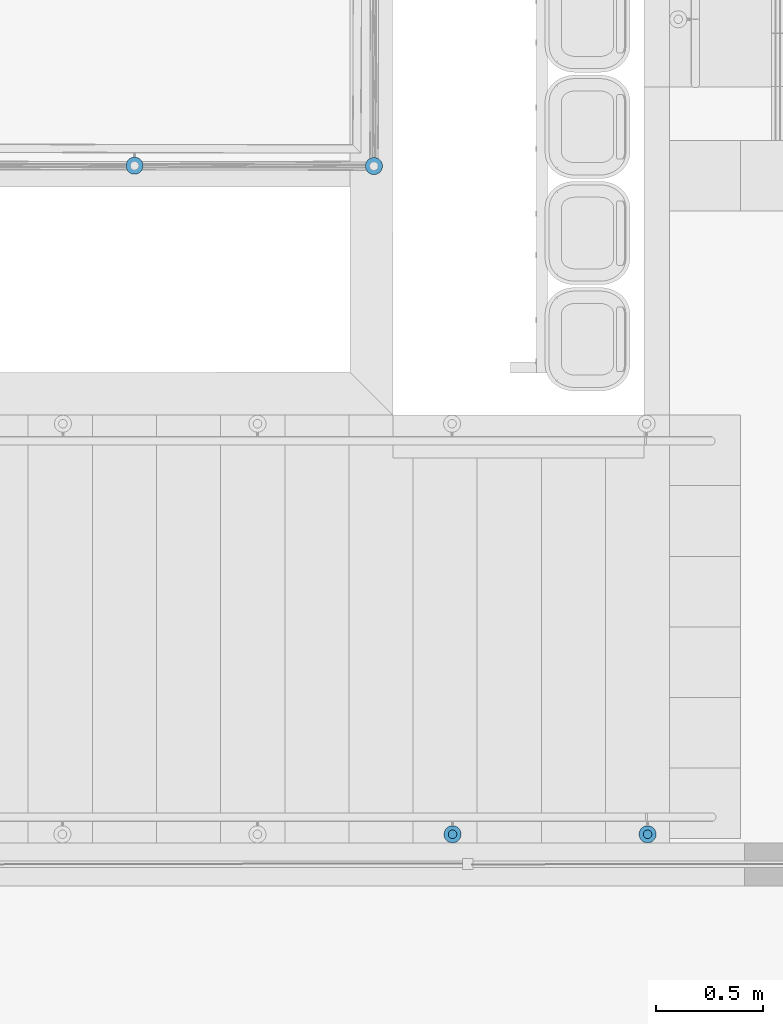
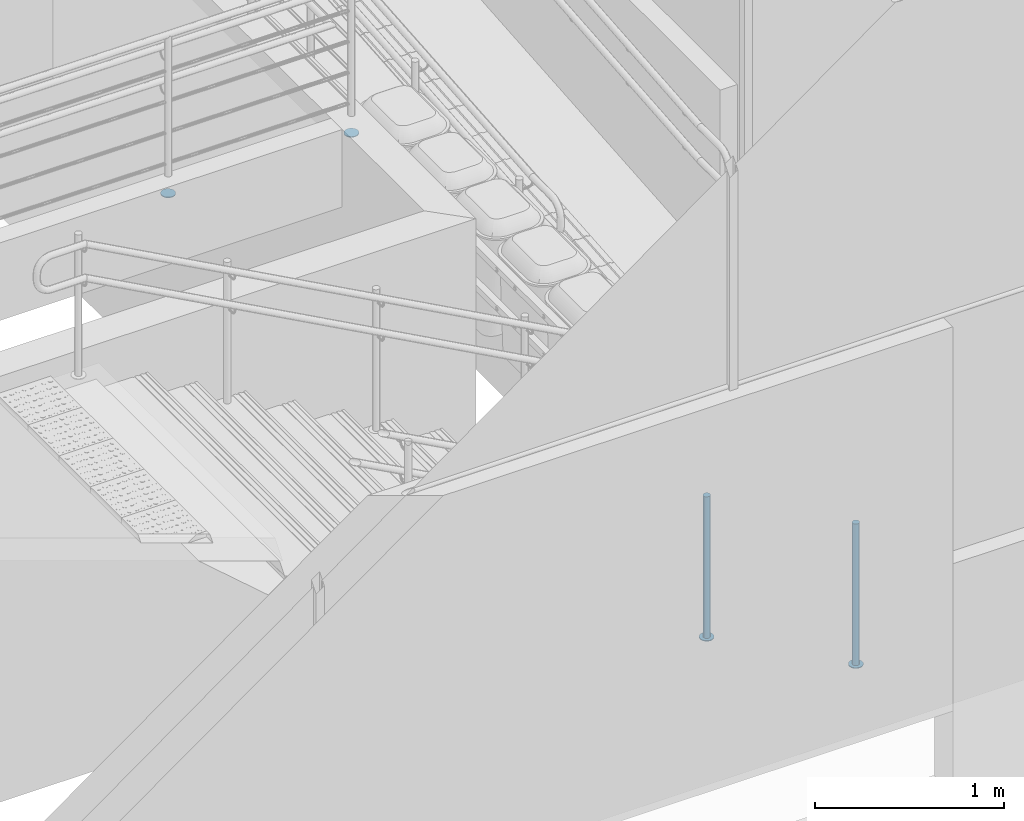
# One storey, part 109 of 237: 6 building element parts, 2 elements without a shape of their own.
"""IFC2X3 building model written with IfcOpenShell, lengths in millimetres."""

from ifc_helpers import new_model, entity, si_unit, converted_unit, derived_unit, money_unit, direction, frame, origin_with_axes, place, context, subcontext, project, spatial, faceted_brep, material, type_object, element, aggregate, save


model = new_model("IFC2X3")

# Units and contexts
model_context = context("Model", 3, precision=0.01, world=origin_with_axes(), true_north=direction((0.0, 1.0)))
body_context = subcontext(model_context, "Body", "Model", "MODEL_VIEW")
ifc_project = project(units=[si_unit("LENGTHUNIT", "METRE", prefix="MILLI"), si_unit("AREAUNIT", "SQUARE_METRE"), si_unit("VOLUMEUNIT", "CUBIC_METRE"), converted_unit("PLANEANGLEUNIT", "DEGREE", entity("IfcPlaneAngleMeasure", 0.0174532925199), si_unit("PLANEANGLEUNIT", "RADIAN"), dimensions=[0, 0, 0, 0, 0, 0, 0]), money_unit("USD"), converted_unit("TIMEUNIT", "Year", entity("IfcTimeMeasure", 31556926.0), si_unit("TIMEUNIT", "SECOND"), dimensions=[0, 0, 1, 0, 0, 0, 0]), si_unit("MASSUNIT", "GRAM", prefix="KILO"), si_unit("THERMODYNAMICTEMPERATUREUNIT", "DEGREE_CELSIUS"), si_unit("LUMINOUSINTENSITYUNIT", "LUMEN"), si_unit("ENERGYUNIT", "JOULE", prefix="MEGA"), derived_unit("THERMALCONDUCTANCEUNIT", [(si_unit("POWERUNIT", "WATT"), 1), (si_unit("LENGTHUNIT", "METRE"), -1), (si_unit("THERMODYNAMICTEMPERATUREUNIT", "KELVIN"), -1)]), derived_unit("SPECIFICHEATCAPACITYUNIT", [(si_unit("ENERGYUNIT", "JOULE"), 1), (si_unit("MASSUNIT", "GRAM", prefix="KILO"), -1), (si_unit("THERMODYNAMICTEMPERATUREUNIT", "KELVIN"), -1)]), derived_unit("MASSDENSITYUNIT", [(si_unit("MASSUNIT", "GRAM", prefix="KILO"), 1), (si_unit("VOLUMEUNIT", "CUBIC_METRE"), -1)])], contexts=[model_context])

# Site, building, storey
site_placement = place(None, origin_with_axes())
site = spatial("IfcSite", under=ifc_project, at=site_placement, Name="Local", CompositionType="ELEMENT")
building_placement = place(site_placement, origin_with_axes())
building = spatial("IfcBuilding", under=site, at=building_placement, Name="Construção", CompositionType="ELEMENT")
storey_placement = place(building_placement, origin_with_axes())
storey = spatial("IfcBuildingStorey", under=building, at=storey_placement, Name="Pavimento Térreo", CompositionType="ELEMENT", Elevation=0.0)

# Railing, building element parts
railing_type = type_object("IfcRailingType", Name="Tipo de Guarda-Corpo", PredefinedType="NOTDEFINED")
railing_1_placement = place(storey_placement, frame((70326.6870103, 28675.2458388, -1357.10819655), z_axis=(0.0, 0.0, 1.0), x_axis=(1.0, 0.0, 0.0)))
railing_1 = element("IfcRailing", 1, at=railing_1_placement, inside=storey, type_object=railing_type, Name="Guarda-Corpo - 004", PredefinedType="NOTDEFINED")
ifc_material_1 = material(Name="Alumínio")
building_element_part_1_placement = place(railing_1_placement, origin_with_axes())
building_element_part_1 = element("IfcBuildingElementPart", 2, at=building_element_part_1_placement, material=ifc_material_1, Name="Alumínio", context=body_context, shape_type="Brep", body=[
    faceted_brep([(-4707.34307729, -1852.74947101, 0.0), (-4707.93967589, -1845.80258246, 0.0), (-4707.93967589, -1845.80258246, 5.0), (-4707.34307729, -1852.74947101, 5.0), (-4707.9618569, -1859.69441896, 0.0), (-4709.77721341, -1866.42640761, 0.0), (-4712.73398814, -1872.74088887, 0.0), (-4716.74234098, -1878.44600042, 0.0), (-4721.68048015, -1883.36839535, 0.0), (-4727.39836281, -1887.35850917, 0.0), (-4733.72225398, -1890.29510429, 0.0), (-4740.46000541, -1892.08895375, 0.0), (-4747.40689396, -1892.68555236, 0.0), (-4754.35184192, -1892.06677275, 0.0), (-4761.08383056, -1890.25141624, 0.0), (-4767.39831182, -1887.29464151, 0.0), (-4773.10342338, -1883.28628867, 0.0), (-4778.02581831, -1878.34814949, 0.0), (-4782.01593212, -1872.63026684, 0.0), (-4784.95252724, -1866.30637567, 0.0), (-4786.74637671, -1859.56862423, 0.0), (-4787.34297531, -1852.62173569, 0.0), (-4786.7241957, -1845.67678773, 0.0), (-4784.90883919, -1838.94479908, 0.0), (-4781.95206447, -1832.63031782, 0.0), (-4777.94371163, -1826.92520627, 0.0), (-4773.00557245, -1822.00281134, 0.0), (-4767.28768979, -1818.01269752, 0.0), (-4760.96379863, -1815.0761024, 0.0), (-4754.22604719, -1813.28225294, 0.0), (-4747.27915864, -1812.68565433, 0.0), (-4740.33421068, -1813.30443394, 0.0), (-4733.60222204, -1815.11979045, 0.0), (-4727.28774078, -1818.07656518, 0.0), (-4721.58262922, -1822.08491802, 0.0), (-4716.6602343, -1827.0230572, 0.0), (-4712.67012048, -1832.74093986, 0.0), (-4709.73352536, -1839.06483102, 0.0), (-4709.73352536, -1839.06483102, 5.0), (-4712.67012048, -1832.74093986, 5.0), (-4716.6602343, -1827.0230572, 5.0), (-4721.58262922, -1822.08491802, 5.0), (-4727.28774078, -1818.07656518, 5.0), (-4733.60222204, -1815.11979045, 5.0), (-4740.33421068, -1813.30443394, 5.0), (-4747.27915864, -1812.68565433, 5.0), (-4754.22604719, -1813.28225294, 5.0), (-4760.96379863, -1815.0761024, 5.0), (-4767.28768979, -1818.01269752, 5.0), (-4773.00557245, -1822.00281134, 5.0), (-4777.94371163, -1826.92520627, 5.0), (-4781.95206447, -1832.63031782, 5.0), (-4784.90883919, -1838.94479908, 5.0), (-4786.7241957, -1845.67678773, 5.0), (-4787.34297531, -1852.62173569, 5.0), (-4786.74637671, -1859.56862423, 5.0), (-4784.95252724, -1866.30637567, 5.0), (-4782.01593212, -1872.63026684, 5.0), (-4778.02581831, -1878.34814949, 5.0), (-4773.10342338, -1883.28628867, 5.0), (-4767.39831182, -1887.29464151, 5.0), (-4761.08383056, -1890.25141624, 5.0), (-4754.35184192, -1892.06677275, 5.0), (-4747.40689396, -1892.68555236, 5.0), (-4740.46000541, -1892.08895375, 5.0), (-4733.72225398, -1890.29510429, 5.0), (-4727.39836281, -1887.35850917, 5.0), (-4721.68048015, -1883.36839535, 5.0), (-4716.74234098, -1878.44600042, 5.0), (-4712.73398814, -1872.74088887, 5.0), (-4709.77721341, -1866.42640761, 5.0), (-4707.9618569, -1859.69441896, 5.0)], [[[0, 1, 2, 3]], [[0, 4, 5, 6, 7, 8, 9, 10, 11, 12, 13, 14, 15, 16, 17, 18, 19, 20, 21, 22, 23, 24, 25, 26, 27, 28, 29, 30, 31, 32, 33, 34, 35, 36, 37, 1]], [[1, 37, 38, 2]], [[3, 2, 38, 39, 40, 41, 42, 43, 44, 45, 46, 47, 48, 49, 50, 51, 52, 53, 54, 55, 56, 57, 58, 59, 60, 61, 62, 63, 64, 65, 66, 67, 68, 69, 70, 71]], [[4, 0, 3, 71]], [[5, 4, 71, 70]], [[6, 5, 70, 69]], [[7, 6, 69, 68]], [[8, 7, 68, 67]], [[9, 8, 67, 66]], [[10, 9, 66, 65]], [[11, 10, 65, 64]], [[12, 11, 64, 63]], [[13, 12, 63, 62]], [[14, 13, 62, 61]], [[15, 14, 61, 60]], [[16, 15, 60, 59]], [[17, 16, 59, 58]], [[18, 17, 58, 57]], [[19, 18, 57, 56]], [[20, 19, 56, 55]], [[21, 20, 55, 54]], [[22, 21, 54, 53]], [[23, 22, 53, 52]], [[24, 23, 52, 51]], [[25, 24, 51, 50]], [[26, 25, 50, 49]], [[27, 26, 49, 48]], [[28, 27, 48, 47]], [[29, 28, 47, 46]], [[30, 29, 46, 45]], [[31, 30, 45, 44]], [[32, 31, 44, 43]], [[33, 32, 43, 42]], [[34, 33, 42, 41]], [[35, 34, 41, 40]], [[36, 35, 40, 39]], [[37, 36, 39, 38]]]),
])
building_element_part_2_placement = place(railing_1_placement, origin_with_axes())
building_element_part_2 = element("IfcBuildingElementPart", 3, at=building_element_part_2_placement, material=ifc_material_1, Name="Alumínio", context=body_context, shape_type="Brep", body=[
    faceted_brep([(-5826.58991011, -1850.96237683, 0.0), (-5827.18650871, -1844.01548828, 0.0), (-5827.18650871, -1844.01548828, 5.0), (-5826.58991011, -1850.96237683, 5.0), (-5827.20868971, -1857.90732479, 0.0), (-5829.02404623, -1864.63931343, 0.0), (-5831.98082095, -1870.95379469, 0.0), (-5835.98917379, -1876.65890625, 0.0), (-5840.92731297, -1881.58130117, 0.0), (-5846.64519563, -1885.57141499, 0.0), (-5852.96908679, -1888.50801011, 0.0), (-5859.70683823, -1890.30185958, 0.0), (-5866.65372678, -1890.89845818, 0.0), (-5873.59867474, -1890.27967857, 0.0), (-5880.33066338, -1888.46432206, 0.0), (-5886.64514464, -1885.50754733, 0.0), (-5892.3502562, -1881.49919449, 0.0), (-5897.27265112, -1876.56105531, 0.0), (-5901.26276494, -1870.84317266, 0.0), (-5904.19936006, -1864.51928149, 0.0), (-5905.99320953, -1857.78153005, 0.0), (-5906.58980813, -1850.83464151, 0.0), (-5905.97102852, -1843.88969355, 0.0), (-5904.15567201, -1837.15770491, 0.0), (-5901.19889728, -1830.84322365, 0.0), (-5897.19054444, -1825.13811209, 0.0), (-5892.25240526, -1820.21571716, 0.0), (-5886.53452261, -1816.22560334, 0.0), (-5880.21063144, -1813.28900822, 0.0), (-5873.47288, -1811.49515876, 0.0), (-5866.52599146, -1810.89856016, 0.0), (-5859.5810435, -1811.51733976, 0.0), (-5852.84905486, -1813.33269628, 0.0), (-5846.5345736, -1816.289471, 0.0), (-5840.82946204, -1820.29782384, 0.0), (-5835.90706711, -1825.23596302, 0.0), (-5831.91695329, -1830.95384568, 0.0), (-5828.98035817, -1837.27773684, 0.0), (-5828.98035817, -1837.27773684, 5.0), (-5831.91695329, -1830.95384568, 5.0), (-5835.90706711, -1825.23596302, 5.0), (-5840.82946204, -1820.29782384, 5.0), (-5846.5345736, -1816.289471, 5.0), (-5852.84905486, -1813.33269628, 5.0), (-5859.5810435, -1811.51733976, 5.0), (-5866.52599146, -1810.89856016, 5.0), (-5873.47288, -1811.49515876, 5.0), (-5880.21063144, -1813.28900822, 5.0), (-5886.53452261, -1816.22560334, 5.0), (-5892.25240526, -1820.21571716, 5.0), (-5897.19054444, -1825.13811209, 5.0), (-5901.19889728, -1830.84322365, 5.0), (-5904.15567201, -1837.15770491, 5.0), (-5905.97102852, -1843.88969355, 5.0), (-5906.58980813, -1850.83464151, 5.0), (-5905.99320953, -1857.78153005, 5.0), (-5904.19936006, -1864.51928149, 5.0), (-5901.26276494, -1870.84317266, 5.0), (-5897.27265112, -1876.56105531, 5.0), (-5892.3502562, -1881.49919449, 5.0), (-5886.64514464, -1885.50754733, 5.0), (-5880.33066338, -1888.46432206, 5.0), (-5873.59867474, -1890.27967857, 5.0), (-5866.65372678, -1890.89845818, 5.0), (-5859.70683823, -1890.30185958, 5.0), (-5852.96908679, -1888.50801011, 5.0), (-5846.64519563, -1885.57141499, 5.0), (-5840.92731297, -1881.58130117, 5.0), (-5835.98917379, -1876.65890625, 5.0), (-5831.98082095, -1870.95379469, 5.0), (-5829.02404623, -1864.63931343, 5.0), (-5827.20868971, -1857.90732479, 5.0)], [[[0, 1, 2, 3]], [[0, 4, 5, 6, 7, 8, 9, 10, 11, 12, 13, 14, 15, 16, 17, 18, 19, 20, 21, 22, 23, 24, 25, 26, 27, 28, 29, 30, 31, 32, 33, 34, 35, 36, 37, 1]], [[1, 37, 38, 2]], [[3, 2, 38, 39, 40, 41, 42, 43, 44, 45, 46, 47, 48, 49, 50, 51, 52, 53, 54, 55, 56, 57, 58, 59, 60, 61, 62, 63, 64, 65, 66, 67, 68, 69, 70, 71]], [[4, 0, 3, 71]], [[5, 4, 71, 70]], [[6, 5, 70, 69]], [[7, 6, 69, 68]], [[8, 7, 68, 67]], [[9, 8, 67, 66]], [[10, 9, 66, 65]], [[11, 10, 65, 64]], [[12, 11, 64, 63]], [[13, 12, 63, 62]], [[14, 13, 62, 61]], [[15, 14, 61, 60]], [[16, 15, 60, 59]], [[17, 16, 59, 58]], [[18, 17, 58, 57]], [[19, 18, 57, 56]], [[20, 19, 56, 55]], [[21, 20, 55, 54]], [[22, 21, 54, 53]], [[23, 22, 53, 52]], [[24, 23, 52, 51]], [[25, 24, 51, 50]], [[26, 25, 50, 49]], [[27, 26, 49, 48]], [[28, 27, 48, 47]], [[29, 28, 47, 46]], [[30, 29, 46, 45]], [[31, 30, 45, 44]], [[32, 31, 44, 43]], [[33, 32, 43, 42]], [[34, 33, 42, 41]], [[35, 34, 41, 40]], [[36, 35, 40, 39]], [[37, 36, 39, 38]]]),
])
aggregate(railing_1, [building_element_part_1, building_element_part_2])

railing_2_placement = place(storey_placement, frame((63166.4526815, 23657.7253191, -3364.52588893), z_axis=(0.0, 0.0, 1.0), x_axis=(1.0, 0.0, 0.0)))
railing_2 = element("IfcRailing", 4, at=railing_2_placement, inside=storey, type_object=railing_type, Name="Guarda-Corpo - 001", PredefinedType="NOTDEFINED")
ifc_material_2 = material(Name="Aço - Inoxidável")
building_element_part_3_placement = place(railing_2_placement, origin_with_axes())
building_element_part_3 = element("IfcBuildingElementPart", 5, at=building_element_part_3_placement, material=ifc_material_2, Name="Aço - Inoxidável", context=body_context, shape_type="Brep", body=[
    faceted_brep([(3689.22114499, 20.3038449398, 26.7154112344), (3692.69410854, 20.0, 26.7154112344), (3692.69410854, 20.0, 941.715411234), (3689.22114499, 20.3038449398, 941.715411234), (3696.16707209, 20.3038449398, 26.7154112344), (3685.85370567, 21.2061475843, 26.7154112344), (3682.69410854, 22.6794919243, 26.7154112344), (3679.83835635, 24.6791111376, 26.7154112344), (3677.37321968, 27.1442478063, 26.7154112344), (3675.37360046, 30.0, 26.7154112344), (3673.90025612, 33.1595971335, 26.7154112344), (3672.99795348, 36.5270364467, 26.7154112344), (3672.69410854, 40.0, 26.7154112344), (3672.99795348, 43.4729635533, 26.7154112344), (3673.90025612, 46.8404028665, 26.7154112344), (3675.37360046, 50.0, 26.7154112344), (3677.37321968, 52.8557521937, 26.7154112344), (3679.83835635, 55.3208888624, 26.7154112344), (3682.69410854, 57.3205080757, 26.7154112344), (3685.85370567, 58.7938524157, 26.7154112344), (3689.22114499, 59.6961550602, 26.7154112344), (3692.69410854, 60.0, 26.7154112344), (3696.16707209, 59.6961550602, 26.7154112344), (3699.53451141, 58.7938524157, 26.7154112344), (3702.69410854, 57.3205080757, 26.7154112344), (3705.54986073, 55.3208888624, 26.7154112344), (3708.0149974, 52.8557521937, 26.7154112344), (3710.01461662, 50.0, 26.7154112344), (3711.48796096, 46.8404028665, 26.7154112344), (3712.3902636, 43.4729635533, 26.7154112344), (3712.69410854, 40.0, 26.7154112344), (3712.3902636, 36.5270364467, 26.7154112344), (3711.48796096, 33.1595971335, 26.7154112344), (3710.01461662, 30.0, 26.7154112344), (3708.0149974, 27.1442478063, 26.7154112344), (3705.54986073, 24.6791111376, 26.7154112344), (3702.69410854, 22.6794919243, 26.7154112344), (3699.53451141, 21.2061475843, 26.7154112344), (3696.16707209, 20.3038449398, 941.715411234), (3672.99795348, 43.4729635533, 941.715411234), (3672.69410854, 40.0, 941.715411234), (3672.99795348, 36.5270364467, 941.715411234), (3673.90025612, 33.1595971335, 941.715411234), (3675.37360046, 30.0, 941.715411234), (3677.37321968, 27.1442478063, 941.715411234), (3679.83835635, 24.6791111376, 941.715411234), (3682.69410854, 22.6794919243, 941.715411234), (3685.85370567, 21.2061475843, 941.715411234), (3699.53451141, 21.2061475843, 941.715411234), (3702.69410854, 22.6794919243, 941.715411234), (3705.54986073, 24.6791111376, 941.715411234), (3708.0149974, 27.1442478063, 941.715411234), (3710.01461662, 30.0, 941.715411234), (3711.48796096, 33.1595971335, 941.715411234), (3712.3902636, 36.5270364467, 941.715411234), (3712.69410854, 40.0, 941.715411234), (3712.3902636, 43.4729635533, 941.715411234), (3711.48796096, 46.8404028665, 941.715411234), (3710.01461662, 50.0, 941.715411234), (3708.0149974, 52.8557521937, 941.715411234), (3705.54986073, 55.3208888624, 941.715411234), (3702.69410854, 57.3205080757, 941.715411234), (3699.53451141, 58.7938524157, 941.715411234), (3696.16707209, 59.6961550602, 941.715411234), (3692.69410854, 60.0, 941.715411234), (3689.22114499, 59.6961550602, 941.715411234), (3685.85370567, 58.7938524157, 941.715411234), (3682.69410854, 57.3205080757, 941.715411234), (3679.83835635, 55.3208888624, 941.715411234), (3677.37321968, 52.8557521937, 941.715411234), (3675.37360046, 50.0, 941.715411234), (3673.90025612, 46.8404028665, 941.715411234)], [[[0, 1, 2, 3]], [[4, 1, 0, 5, 6, 7, 8, 9, 10, 11, 12, 13, 14, 15, 16, 17, 18, 19, 20, 21, 22, 23, 24, 25, 26, 27, 28, 29, 30, 31, 32, 33, 34, 35, 36, 37]], [[1, 4, 38, 2]], [[39, 40, 41, 42, 43, 44, 45, 46, 47, 3, 2, 38, 48, 49, 50, 51, 52, 53, 54, 55, 56, 57, 58, 59, 60, 61, 62, 63, 64, 65, 66, 67, 68, 69, 70, 71]], [[5, 0, 3, 47]], [[6, 5, 47, 46]], [[7, 6, 46, 45]], [[8, 7, 45, 44]], [[9, 8, 44, 43]], [[10, 9, 43, 42]], [[11, 10, 42, 41]], [[12, 11, 41, 40]], [[13, 12, 40, 39]], [[14, 13, 39, 71]], [[15, 14, 71, 70]], [[16, 15, 70, 69]], [[17, 16, 69, 68]], [[18, 17, 68, 67]], [[19, 18, 67, 66]], [[20, 19, 66, 65]], [[21, 20, 65, 64]], [[22, 21, 64, 63]], [[23, 22, 63, 62]], [[24, 23, 62, 61]], [[25, 24, 61, 60]], [[26, 25, 60, 59]], [[27, 26, 59, 58]], [[28, 27, 58, 57]], [[29, 28, 57, 56]], [[30, 29, 56, 55]], [[31, 30, 55, 54]], [[32, 31, 54, 53]], [[33, 32, 53, 52]], [[34, 33, 52, 51]], [[35, 34, 51, 50]], [[36, 35, 50, 49]], [[37, 36, 49, 48]], [[4, 37, 48, 38]]]),
])
building_element_part_4_placement = place(railing_2_placement, origin_with_axes())
building_element_part_4 = element("IfcBuildingElementPart", 6, at=building_element_part_4_placement, material=ifc_material_1, Name="Alumínio", context=body_context, shape_type="Brep", body=[
    faceted_brep([(3732.69410854, 40.0, 21.7154112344), (3732.08641866, 46.9459271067, 21.7154112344), (3732.08641866, 46.9459271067, 26.7154112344), (3732.69410854, 40.0, 26.7154112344), (3732.08641866, 33.0540728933, 21.7154112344), (3730.28181337, 26.319194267, 21.7154112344), (3727.33512469, 20.0, 21.7154112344), (3723.33588627, 14.2884956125, 21.7154112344), (3718.40561293, 9.35822227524, 21.7154112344), (3712.69410854, 5.35898384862, 21.7154112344), (3706.37491427, 2.41229516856, 21.7154112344), (3699.64003565, 0.607689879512, 21.7154112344), (3692.69410854, 0.0, 21.7154112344), (3685.74818143, 0.607689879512, 21.7154112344), (3679.01330281, 2.41229516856, 21.7154112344), (3672.69410854, 5.35898384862, 21.7154112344), (3666.98260415, 9.35822227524, 21.7154112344), (3662.05233082, 14.2884956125, 21.7154112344), (3658.05309239, 20.0, 21.7154112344), (3655.10640371, 26.319194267, 21.7154112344), (3653.30179842, 33.0540728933, 21.7154112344), (3652.69410854, 40.0, 21.7154112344), (3653.30179842, 46.9459271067, 21.7154112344), (3655.10640371, 53.680805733, 21.7154112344), (3658.05309239, 60.0, 21.7154112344), (3662.05233082, 65.7115043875, 21.7154112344), (3666.98260415, 70.6417777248, 21.7154112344), (3672.69410854, 74.6410161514, 21.7154112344), (3679.01330281, 77.5877048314, 21.7154112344), (3685.74818143, 79.3923101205, 21.7154112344), (3692.69410854, 80.0, 21.7154112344), (3699.64003565, 79.3923101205, 21.7154112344), (3706.37491427, 77.5877048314, 21.7154112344), (3712.69410854, 74.6410161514, 21.7154112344), (3718.40561293, 70.6417777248, 21.7154112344), (3723.33588627, 65.7115043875, 21.7154112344), (3727.33512469, 60.0, 21.7154112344), (3730.28181337, 53.680805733, 21.7154112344), (3730.28181337, 53.680805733, 26.7154112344), (3727.33512469, 60.0, 26.7154112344), (3723.33588627, 65.7115043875, 26.7154112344), (3718.40561293, 70.6417777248, 26.7154112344), (3712.69410854, 74.6410161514, 26.7154112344), (3706.37491427, 77.5877048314, 26.7154112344), (3699.64003565, 79.3923101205, 26.7154112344), (3692.69410854, 80.0, 26.7154112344), (3685.74818143, 79.3923101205, 26.7154112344), (3679.01330281, 77.5877048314, 26.7154112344), (3672.69410854, 74.6410161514, 26.7154112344), (3666.98260415, 70.6417777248, 26.7154112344), (3662.05233082, 65.7115043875, 26.7154112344), (3658.05309239, 60.0, 26.7154112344), (3655.10640371, 53.680805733, 26.7154112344), (3653.30179842, 46.9459271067, 26.7154112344), (3652.69410854, 40.0, 26.7154112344), (3653.30179842, 33.0540728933, 26.7154112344), (3655.10640371, 26.319194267, 26.7154112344), (3658.05309239, 20.0, 26.7154112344), (3662.05233082, 14.2884956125, 26.7154112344), (3666.98260415, 9.35822227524, 26.7154112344), (3672.69410854, 5.35898384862, 26.7154112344), (3679.01330281, 2.41229516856, 26.7154112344), (3685.74818143, 0.607689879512, 26.7154112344), (3692.69410854, 0.0, 26.7154112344), (3699.64003565, 0.607689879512, 26.7154112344), (3706.37491427, 2.41229516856, 26.7154112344), (3712.69410854, 5.35898384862, 26.7154112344), (3718.40561293, 9.35822227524, 26.7154112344), (3723.33588627, 14.2884956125, 26.7154112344), (3727.33512469, 20.0, 26.7154112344), (3730.28181337, 26.319194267, 26.7154112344), (3732.08641866, 33.0540728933, 26.7154112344)], [[[0, 1, 2, 3]], [[0, 4, 5, 6, 7, 8, 9, 10, 11, 12, 13, 14, 15, 16, 17, 18, 19, 20, 21, 22, 23, 24, 25, 26, 27, 28, 29, 30, 31, 32, 33, 34, 35, 36, 37, 1]], [[1, 37, 38, 2]], [[3, 2, 38, 39, 40, 41, 42, 43, 44, 45, 46, 47, 48, 49, 50, 51, 52, 53, 54, 55, 56, 57, 58, 59, 60, 61, 62, 63, 64, 65, 66, 67, 68, 69, 70, 71]], [[4, 0, 3, 71]], [[5, 4, 71, 70]], [[6, 5, 70, 69]], [[7, 6, 69, 68]], [[8, 7, 68, 67]], [[9, 8, 67, 66]], [[10, 9, 66, 65]], [[11, 10, 65, 64]], [[12, 11, 64, 63]], [[13, 12, 63, 62]], [[14, 13, 62, 61]], [[15, 14, 61, 60]], [[16, 15, 60, 59]], [[17, 16, 59, 58]], [[18, 17, 58, 57]], [[19, 18, 57, 56]], [[20, 19, 56, 55]], [[21, 20, 55, 54]], [[22, 21, 54, 53]], [[23, 22, 53, 52]], [[24, 23, 52, 51]], [[25, 24, 51, 50]], [[26, 25, 50, 49]], [[27, 26, 49, 48]], [[28, 27, 48, 47]], [[29, 28, 47, 46]], [[30, 29, 46, 45]], [[31, 30, 45, 44]], [[32, 31, 44, 43]], [[33, 32, 43, 42]], [[34, 33, 42, 41]], [[35, 34, 41, 40]], [[36, 35, 40, 39]], [[37, 36, 39, 38]]]),
])
building_element_part_5_placement = place(railing_2_placement, origin_with_axes())
building_element_part_5 = element("IfcBuildingElementPart", 7, at=building_element_part_5_placement, material=ifc_material_2, Name="Aço - Inoxidável", context=body_context, shape_type="Brep", body=[
    faceted_brep([(2777.02821392, 20.3038449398, 521.931526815), (2780.50117747, 20.0, 521.931526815), (2780.50117747, 20.0, 1436.93152681), (2777.02821392, 20.3038449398, 1436.93152681), (2783.97414103, 20.3038449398, 521.931526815), (2773.66077461, 21.2061475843, 521.931526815), (2770.50117747, 22.6794919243, 521.931526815), (2767.64542528, 24.6791111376, 521.931526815), (2765.18028861, 27.1442478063, 521.931526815), (2763.1806694, 30.0, 521.931526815), (2761.70732506, 33.1595971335, 521.931526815), (2760.80502241, 36.5270364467, 521.931526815), (2760.50117747, 40.0, 521.931526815), (2760.80502241, 43.4729635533, 521.931526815), (2761.70732506, 46.8404028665, 521.931526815), (2763.1806694, 50.0, 521.931526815), (2765.18028861, 52.8557521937, 521.931526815), (2767.64542528, 55.3208888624, 521.931526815), (2770.50117747, 57.3205080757, 521.931526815), (2773.66077461, 58.7938524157, 521.931526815), (2777.02821392, 59.6961550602, 521.931526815), (2780.50117747, 60.0, 521.931526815), (2783.97414103, 59.6961550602, 521.931526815), (2787.34158034, 58.7938524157, 521.931526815), (2790.50117747, 57.3205080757, 521.931526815), (2793.35692967, 55.3208888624, 521.931526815), (2795.82206634, 52.8557521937, 521.931526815), (2797.82168555, 50.0, 521.931526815), (2799.29502989, 46.8404028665, 521.931526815), (2800.19733253, 43.4729635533, 521.931526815), (2800.50117747, 40.0, 521.931526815), (2800.19733253, 36.5270364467, 521.931526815), (2799.29502989, 33.1595971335, 521.931526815), (2797.82168555, 30.0, 521.931526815), (2795.82206634, 27.1442478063, 521.931526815), (2793.35692967, 24.6791111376, 521.931526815), (2790.50117747, 22.6794919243, 521.931526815), (2787.34158034, 21.2061475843, 521.931526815), (2783.97414103, 20.3038449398, 1436.93152681), (2760.80502241, 43.4729635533, 1436.93152681), (2760.50117747, 40.0, 1436.93152681), (2760.80502241, 36.5270364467, 1436.93152681), (2761.70732506, 33.1595971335, 1436.93152681), (2763.1806694, 30.0, 1436.93152681), (2765.18028861, 27.1442478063, 1436.93152681), (2767.64542528, 24.6791111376, 1436.93152681), (2770.50117747, 22.6794919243, 1436.93152681), (2773.66077461, 21.2061475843, 1436.93152681), (2787.34158034, 21.2061475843, 1436.93152681), (2790.50117747, 22.6794919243, 1436.93152681), (2793.35692967, 24.6791111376, 1436.93152681), (2795.82206634, 27.1442478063, 1436.93152681), (2797.82168555, 30.0, 1436.93152681), (2799.29502989, 33.1595971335, 1436.93152681), (2800.19733253, 36.5270364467, 1436.93152681), (2800.50117747, 40.0, 1436.93152681), (2800.19733253, 43.4729635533, 1436.93152681), (2799.29502989, 46.8404028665, 1436.93152681), (2797.82168555, 50.0, 1436.93152681), (2795.82206634, 52.8557521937, 1436.93152681), (2793.35692967, 55.3208888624, 1436.93152681), (2790.50117747, 57.3205080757, 1436.93152681), (2787.34158034, 58.7938524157, 1436.93152681), (2783.97414103, 59.6961550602, 1436.93152681), (2780.50117747, 60.0, 1436.93152681), (2777.02821392, 59.6961550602, 1436.93152681), (2773.66077461, 58.7938524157, 1436.93152681), (2770.50117747, 57.3205080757, 1436.93152681), (2767.64542528, 55.3208888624, 1436.93152681), (2765.18028861, 52.8557521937, 1436.93152681), (2763.1806694, 50.0, 1436.93152681), (2761.70732506, 46.8404028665, 1436.93152681)], [[[0, 1, 2, 3]], [[4, 1, 0, 5, 6, 7, 8, 9, 10, 11, 12, 13, 14, 15, 16, 17, 18, 19, 20, 21, 22, 23, 24, 25, 26, 27, 28, 29, 30, 31, 32, 33, 34, 35, 36, 37]], [[1, 4, 38, 2]], [[39, 40, 41, 42, 43, 44, 45, 46, 47, 3, 2, 38, 48, 49, 50, 51, 52, 53, 54, 55, 56, 57, 58, 59, 60, 61, 62, 63, 64, 65, 66, 67, 68, 69, 70, 71]], [[5, 0, 3, 47]], [[6, 5, 47, 46]], [[7, 6, 46, 45]], [[8, 7, 45, 44]], [[9, 8, 44, 43]], [[10, 9, 43, 42]], [[11, 10, 42, 41]], [[12, 11, 41, 40]], [[13, 12, 40, 39]], [[14, 13, 39, 71]], [[15, 14, 71, 70]], [[16, 15, 70, 69]], [[17, 16, 69, 68]], [[18, 17, 68, 67]], [[19, 18, 67, 66]], [[20, 19, 66, 65]], [[21, 20, 65, 64]], [[22, 21, 64, 63]], [[23, 22, 63, 62]], [[24, 23, 62, 61]], [[25, 24, 61, 60]], [[26, 25, 60, 59]], [[27, 26, 59, 58]], [[28, 27, 58, 57]], [[29, 28, 57, 56]], [[30, 29, 56, 55]], [[31, 30, 55, 54]], [[32, 31, 54, 53]], [[33, 32, 53, 52]], [[34, 33, 52, 51]], [[35, 34, 51, 50]], [[36, 35, 50, 49]], [[37, 36, 49, 48]], [[4, 37, 48, 38]]]),
])
building_element_part_6_placement = place(railing_2_placement, origin_with_axes())
building_element_part_6 = element("IfcBuildingElementPart", 8, at=building_element_part_6_placement, material=ifc_material_1, Name="Alumínio", context=body_context, shape_type="Brep", body=[
    faceted_brep([(2820.50117747, 40.0, 516.931526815), (2819.89348759, 46.9459271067, 516.931526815), (2819.89348759, 46.9459271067, 521.931526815), (2820.50117747, 40.0, 521.931526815), (2819.89348759, 33.0540728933, 516.931526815), (2818.0888823, 26.319194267, 516.931526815), (2815.14219362, 20.0, 516.931526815), (2811.1429552, 14.2884956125, 516.931526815), (2806.21268186, 9.35822227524, 516.931526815), (2800.50117747, 5.35898384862, 516.931526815), (2794.18198321, 2.41229516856, 516.931526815), (2787.44710458, 0.607689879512, 516.931526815), (2780.50117747, 0.0, 516.931526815), (2773.55525037, 0.607689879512, 516.931526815), (2766.82037174, 2.41229516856, 516.931526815), (2760.50117747, 5.35898384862, 516.931526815), (2754.78967309, 9.35822227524, 516.931526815), (2749.85939975, 14.2884956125, 516.931526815), (2745.86016132, 20.0, 516.931526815), (2742.91347264, 26.319194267, 516.931526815), (2741.10886735, 33.0540728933, 516.931526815), (2740.50117747, 40.0, 516.931526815), (2741.10886735, 46.9459271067, 516.931526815), (2742.91347264, 53.680805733, 516.931526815), (2745.86016132, 60.0, 516.931526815), (2749.85939975, 65.7115043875, 516.931526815), (2754.78967309, 70.6417777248, 516.931526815), (2760.50117747, 74.6410161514, 516.931526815), (2766.82037174, 77.5877048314, 516.931526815), (2773.55525037, 79.3923101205, 516.931526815), (2780.50117747, 80.0, 516.931526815), (2787.44710458, 79.3923101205, 516.931526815), (2794.18198321, 77.5877048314, 516.931526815), (2800.50117747, 74.6410161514, 516.931526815), (2806.21268186, 70.6417777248, 516.931526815), (2811.1429552, 65.7115043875, 516.931526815), (2815.14219362, 60.0, 516.931526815), (2818.0888823, 53.680805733, 516.931526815), (2818.0888823, 53.680805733, 521.931526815), (2815.14219362, 60.0, 521.931526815), (2811.1429552, 65.7115043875, 521.931526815), (2806.21268186, 70.6417777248, 521.931526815), (2800.50117747, 74.6410161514, 521.931526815), (2794.18198321, 77.5877048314, 521.931526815), (2787.44710458, 79.3923101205, 521.931526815), (2780.50117747, 80.0, 521.931526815), (2773.55525037, 79.3923101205, 521.931526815), (2766.82037174, 77.5877048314, 521.931526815), (2760.50117747, 74.6410161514, 521.931526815), (2754.78967309, 70.6417777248, 521.931526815), (2749.85939975, 65.7115043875, 521.931526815), (2745.86016132, 60.0, 521.931526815), (2742.91347264, 53.680805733, 521.931526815), (2741.10886735, 46.9459271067, 521.931526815), (2740.50117747, 40.0, 521.931526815), (2741.10886735, 33.0540728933, 521.931526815), (2742.91347264, 26.319194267, 521.931526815), (2745.86016132, 20.0, 521.931526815), (2749.85939975, 14.2884956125, 521.931526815), (2754.78967309, 9.35822227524, 521.931526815), (2760.50117747, 5.35898384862, 521.931526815), (2766.82037174, 2.41229516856, 521.931526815), (2773.55525037, 0.607689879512, 521.931526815), (2780.50117747, 0.0, 521.931526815), (2787.44710458, 0.607689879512, 521.931526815), (2794.18198321, 2.41229516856, 521.931526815), (2800.50117747, 5.35898384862, 521.931526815), (2806.21268186, 9.35822227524, 521.931526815), (2811.1429552, 14.2884956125, 521.931526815), (2815.14219362, 20.0, 521.931526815), (2818.0888823, 26.319194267, 521.931526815), (2819.89348759, 33.0540728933, 521.931526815)], [[[0, 1, 2, 3]], [[0, 4, 5, 6, 7, 8, 9, 10, 11, 12, 13, 14, 15, 16, 17, 18, 19, 20, 21, 22, 23, 24, 25, 26, 27, 28, 29, 30, 31, 32, 33, 34, 35, 36, 37, 1]], [[1, 37, 38, 2]], [[3, 2, 38, 39, 40, 41, 42, 43, 44, 45, 46, 47, 48, 49, 50, 51, 52, 53, 54, 55, 56, 57, 58, 59, 60, 61, 62, 63, 64, 65, 66, 67, 68, 69, 70, 71]], [[4, 0, 3, 71]], [[5, 4, 71, 70]], [[6, 5, 70, 69]], [[7, 6, 69, 68]], [[8, 7, 68, 67]], [[9, 8, 67, 66]], [[10, 9, 66, 65]], [[11, 10, 65, 64]], [[12, 11, 64, 63]], [[13, 12, 63, 62]], [[14, 13, 62, 61]], [[15, 14, 61, 60]], [[16, 15, 60, 59]], [[17, 16, 59, 58]], [[18, 17, 58, 57]], [[19, 18, 57, 56]], [[20, 19, 56, 55]], [[21, 20, 55, 54]], [[22, 21, 54, 53]], [[23, 22, 53, 52]], [[24, 23, 52, 51]], [[25, 24, 51, 50]], [[26, 25, 50, 49]], [[27, 26, 49, 48]], [[28, 27, 48, 47]], [[29, 28, 47, 46]], [[30, 29, 46, 45]], [[31, 30, 45, 44]], [[32, 31, 44, 43]], [[33, 32, 43, 42]], [[34, 33, 42, 41]], [[35, 34, 41, 40]], [[36, 35, 40, 39]], [[37, 36, 39, 38]]]),
])
aggregate(railing_2, [building_element_part_3, building_element_part_4, building_element_part_5, building_element_part_6])

save(model, "model.ifc")
